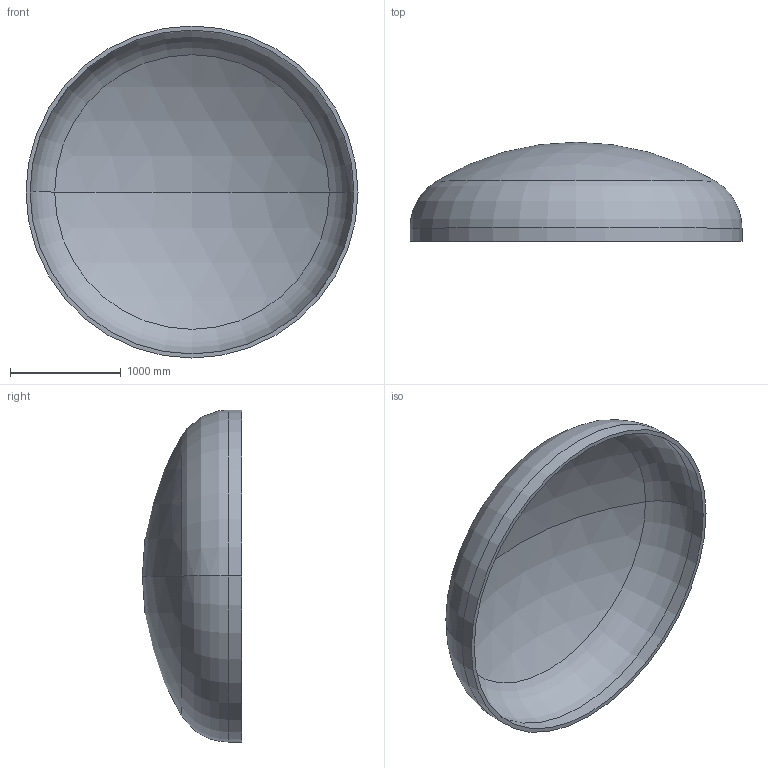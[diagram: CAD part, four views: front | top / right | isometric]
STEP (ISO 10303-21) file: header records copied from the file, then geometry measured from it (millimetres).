
FILE_DESCRIPTION (( 'STEP AP203' ), '1' );
FILE_NAME ('DIN 28013 Korbbogenform_-_Boden DIN 28013 - 3000 x 120 - I - s=37.step', '2016-07-01T17:44:14', ( '' ), ( '' ), 'SwSTEP 2.0', 'SolidWorks 2013', '' );
FILE_SCHEMA (( 'CONFIG_CONTROL_DESIGN' ));
Length unit declared in the file: millimetre
Products named in the file (1): DIN 28013 Korbbogenform_-_Boden DIN 28013 - 3000 x 120 - I - s=37
Bounding box: 3000 x 896.4 x 3000 mm (x, y, z)
Volume: 397394001.1 mm3; surface area: 21828032.4 mm2
Topology: 1 solids, 1 shells, 13 faces, 24 edges, 14 vertices
Faces by surface type: torus 4, cylinder 4, sphere 4, plane 1
Entity records: 407 total; most frequent: DIRECTION 72, CARTESIAN_POINT 52, ORIENTED_EDGE 48, AXIS2_PLACEMENT_3D 34, EDGE_CURVE 24, CIRCLE 20, VERTEX_POINT 14, EDGE_LOOP 14
